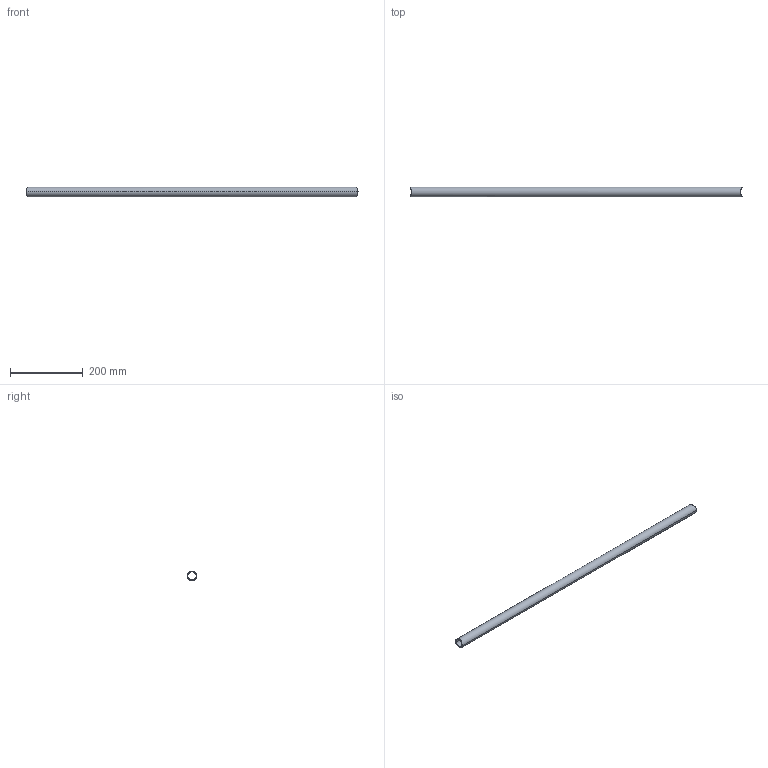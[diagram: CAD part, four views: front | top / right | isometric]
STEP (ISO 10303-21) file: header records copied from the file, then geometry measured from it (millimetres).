
FILE_DESCRIPTION (( 'STEP AP214' ), '1' );
FILE_NAME ('CCJ029-REP.228 - LISSE GARDE CORPS AMOVIBLE A3-A4.STEP', '2024-01-11T14:40:21', ( '' ), ( '' ), 'SwSTEP 2.0', 'SolidWorks 2021', '' );
FILE_SCHEMA (( 'AUTOMOTIVE_DESIGN' ));
Length unit declared in the file: millimetre
Products named in the file (1): CCJ029-REP.228 - LISSE GARDE CORPS AMOVIBLE A3-A4
Bounding box: 915.88 x 26.9 x 26.9 mm (x, y, z)
Volume: 161566 mm3; surface area: 141038.8 mm2
Topology: 1 solids, 1 shells, 11 faces, 30 edges, 20 vertices
Faces by surface type: cylinder 11
Entity records: 1037 total; most frequent: CARTESIAN_POINT 749, ORIENTED_EDGE 60, DIRECTION 34, EDGE_CURVE 30, B_SPLINE_CURVE_WITH_KNOTS 20, VERTEX_POINT 20, EDGE_LOOP 16, AXIS2_PLACEMENT_3D 12
